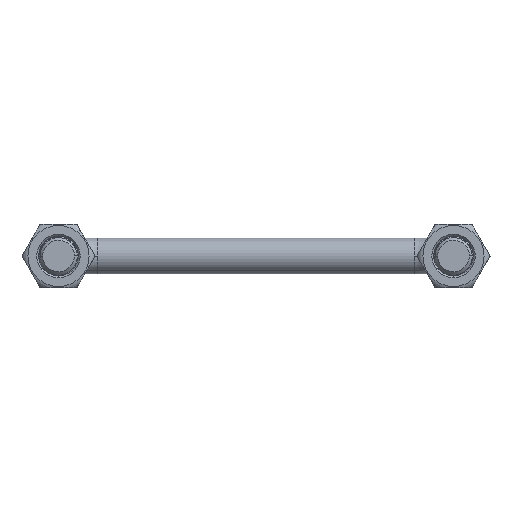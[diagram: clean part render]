
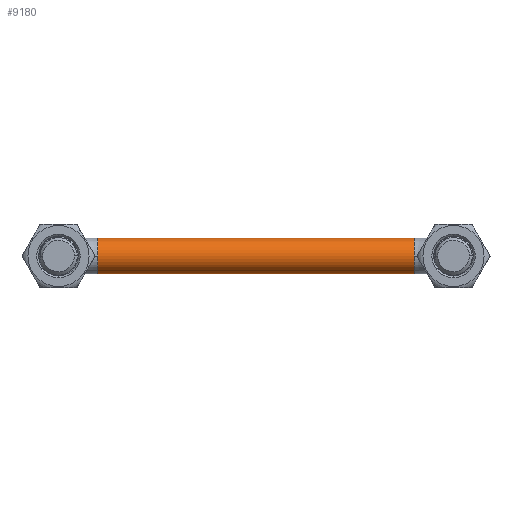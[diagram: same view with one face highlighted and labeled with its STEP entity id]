
A CAD part, front view. The second image highlights one B-rep face of the part: STEP entity #9180.
In plain terms, the highlighted cylindrical face has radius 4.5 mm (diameter 9 mm), a partial arc.
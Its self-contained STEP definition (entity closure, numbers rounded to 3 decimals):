
#54 = CARTESIAN_POINT ( 'NONE',  ( 40., 33., 4.5 ) ) ;
#147 = VECTOR ( 'NONE', #5022, 1000. ) ;
#188 = DIRECTION ( 'NONE',  ( -1., 0., 0. ) ) ;
#626 = CARTESIAN_POINT ( 'NONE',  ( -40., 28.5, 0. ) ) ;
#942 = VERTEX_POINT ( 'NONE', #626 ) ;
#1027 = CIRCLE ( 'NONE', #3142, 4.5 ) ;
#1227 = CARTESIAN_POINT ( 'NONE',  ( -40., 33., -4.5 ) ) ;
#1282 = EDGE_CURVE ( 'NONE', #8260, #6314, #2806, .T. ) ;
#1572 = DIRECTION ( 'NONE',  ( -1., 0., 0. ) ) ;
#1638 = DIRECTION ( 'NONE',  ( 0., 0., 1. ) ) ;
#1956 = EDGE_LOOP ( 'NONE', ( #6499, #9334, #4760, #7683, #4107, #4350 ) ) ;
#1991 = CARTESIAN_POINT ( 'NONE',  ( -40., 33., 4.5 ) ) ;
#2141 = LINE ( 'NONE', #1991, #147 ) ;
#2279 = CARTESIAN_POINT ( 'NONE',  ( -40., 33., 0. ) ) ;
#2306 = DIRECTION ( 'NONE',  ( 1., 0., 0. ) ) ;
#2405 = EDGE_CURVE ( 'NONE', #6314, #9324, #1027, .T. ) ;
#2806 = CIRCLE ( 'NONE', #4094, 4.5 ) ;
#2875 = FACE_OUTER_BOUND ( 'NONE', #1956, .T. ) ;
#3081 = EDGE_CURVE ( 'NONE', #942, #6719, #7671, .T. ) ;
#3142 = AXIS2_PLACEMENT_3D ( 'NONE', #4687, #188, #1638 ) ;
#3441 = CARTESIAN_POINT ( 'NONE',  ( 40., 33., -4.5 ) ) ;
#3477 = EDGE_CURVE ( 'NONE', #3854, #8260, #9263, .T. ) ;
#3483 = AXIS2_PLACEMENT_3D ( 'NONE', #5426, #1572, #5984 ) ;
#3503 = DIRECTION ( 'NONE',  ( -1., 0., 0. ) ) ;
#3587 = DIRECTION ( 'NONE',  ( 0., 0., 1. ) ) ;
#3854 = VERTEX_POINT ( 'NONE', #1227 ) ;
#4027 = CARTESIAN_POINT ( 'NONE',  ( -40., 33., 4.5 ) ) ;
#4094 = AXIS2_PLACEMENT_3D ( 'NONE', #6645, #3503, #8017 ) ;
#4107 = ORIENTED_EDGE ( 'NONE', *, *, #1282, .T. ) ;
#4293 = AXIS2_PLACEMENT_3D ( 'NONE', #2279, #9181, #4550 ) ;
#4350 = ORIENTED_EDGE ( 'NONE', *, *, #2405, .T. ) ;
#4550 = DIRECTION ( 'NONE',  ( 0., 0., -1. ) ) ;
#4687 = CARTESIAN_POINT ( 'NONE',  ( 40., 33., 0. ) ) ;
#4760 = ORIENTED_EDGE ( 'NONE', *, *, #9058, .F. ) ;
#5022 = DIRECTION ( 'NONE',  ( 1., 0., 0. ) ) ;
#5240 = VECTOR ( 'NONE', #2306, 1000. ) ;
#5253 = CYLINDRICAL_SURFACE ( 'NONE', #4293, 4.5 ) ;
#5426 = CARTESIAN_POINT ( 'NONE',  ( -40., 33., 0. ) ) ;
#5439 = CARTESIAN_POINT ( 'NONE',  ( -40., 33., -4.5 ) ) ;
#5807 = EDGE_CURVE ( 'NONE', #6719, #9324, #2141, .T. ) ;
#5984 = DIRECTION ( 'NONE',  ( 0., 0., 1. ) ) ;
#6314 = VERTEX_POINT ( 'NONE', #7495 ) ;
#6499 = ORIENTED_EDGE ( 'NONE', *, *, #5807, .F. ) ;
#6645 = CARTESIAN_POINT ( 'NONE',  ( 40., 33., 0. ) ) ;
#6719 = VERTEX_POINT ( 'NONE', #4027 ) ;
#7482 = CARTESIAN_POINT ( 'NONE',  ( -40., 33., 0. ) ) ;
#7495 = CARTESIAN_POINT ( 'NONE',  ( 40., 28.5, 0. ) ) ;
#7671 = CIRCLE ( 'NONE', #7825, 4.5 ) ;
#7683 = ORIENTED_EDGE ( 'NONE', *, *, #3477, .T. ) ;
#7825 = AXIS2_PLACEMENT_3D ( 'NONE', #7482, #9998, #3587 ) ;
#8017 = DIRECTION ( 'NONE',  ( 0., 0., 1. ) ) ;
#8260 = VERTEX_POINT ( 'NONE', #3441 ) ;
#9058 = EDGE_CURVE ( 'NONE', #3854, #942, #9814, .T. ) ;
#9180 = ADVANCED_FACE ( 'NONE', ( #2875 ), #5253, .T. ) ;
#9181 = DIRECTION ( 'NONE',  ( 1., 0., 0. ) ) ;
#9263 = LINE ( 'NONE', #5439, #5240 ) ;
#9324 = VERTEX_POINT ( 'NONE', #54 ) ;
#9334 = ORIENTED_EDGE ( 'NONE', *, *, #3081, .F. ) ;
#9814 = CIRCLE ( 'NONE', #3483, 4.5 ) ;
#9998 = DIRECTION ( 'NONE',  ( -1., 0., 0. ) ) ;
